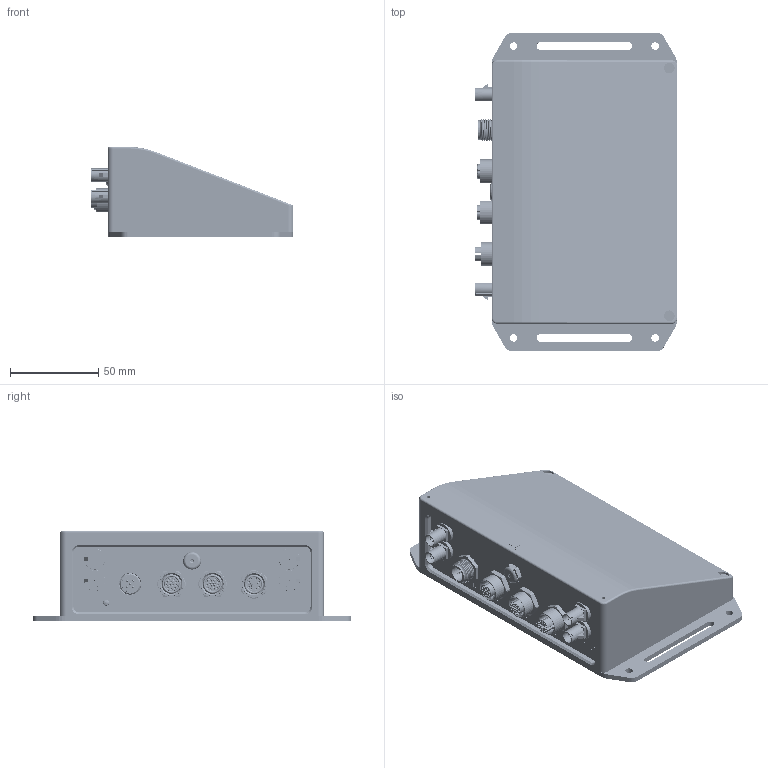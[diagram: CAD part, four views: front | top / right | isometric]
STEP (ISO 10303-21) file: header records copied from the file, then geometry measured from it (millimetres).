
FILE_DESCRIPTION(/* description */ (''),/* implementation_level */ '2;1');
FILE_NAME(/* name */ 'Assembly_PBx-A1_coordinate_system_reduced_for_for_sharing.step',/* time_stamp */ '2026-06-10T18:06:15+02:00',/* author */ (''),/* organization */ (''),/* preprocessor_version */ 'ST-DEVELOPER v20.1',/* originating_system */ 'Autodesk Translation Framework v15.8.0.0',/* authorisation */ '');
FILE_SCHEMA (('AUTOMOTIVE_DESIGN { 1 0 10303 214 3 1 1 }'));
Products named in the file (1150): Assembly_PBx-A1; CSRO+P-BOX-B; DesignRootModel; uid__4; Submodel-ACX_RESC1005X55N_3093030905_part_ACx_RESC1005X55N; Submodel-noModelForPart_ACX_RESC1005X55N_3093030905; placementOutline; placementOutline_1; Submodel-COCE+27P100V1S_1357022317_part_C0402-CAPC1005X60N; Submodel-noModelForPart_COCE+27P100V1S_1357022317; placementOutline_2; Submodel-ACX_DIOM5226X100N_A-K_2987303643_part_ACx_DIOM5226X100N_A-K; Submodel-noModelForPart_ACX_DIOM5226X100N_A-K_2987303643; placementOutline_3; placementOutline_4; Submodel-RET1+3.24K16SMT2_3268861845_part_R0402-RESC1005X40N; Submodel-noModelForPart_RET1+3.24K16SMT2_3268861845; placementOutline_5; Submodel-COCE+8P50V1S_4019567180_part_C0402-CAPC1005X60N; Submodel-noModelForPart_COCE+8P50V1S_4019567180; placementOutline_6; Submodel-COCE+33N50V7S_4019567180_part_C0402-CAPC1005X60N; Submodel-noModelForPart_COCE+33N50V7S_4019567180; placementOutline_7; Submodel-SOP80P1340X300-24N-MU_1089878439_part_SOP80P1340X300-24N-MU; Submodel-noModelForPart_SOP80P1340X300-24N-MU_1089878439; placementOutline_8; Submodel-INFE+BLM18PG121S_55953996_part_L0603-INDC1608X95N; Submodel-noModelForPart_INFE+BLM18PG121S_55953996; placementOutline_9; Submodel-COCE+1.2P50VS_4019567180_part_C0402-CAPC1005X60N; Submodel-noModelForPart_COCE+1.2P50VS_4019567180; placementOutline_10; Submodel-ACX_QFN_VISHAY-MLP55-27L_EP_4225060061_part_ACx_QFN_VISHAY-M
LP55-27L_EP; Submodel-noModelForPart_ACX_QFN_VISHAY-MLP55-27L_EP_4225060061; placementOutline_11; placementOutline_12; Submodel-TRMO+2N7002SMT_1340689990_part_SOT95P240X110-3N-GSD; Submodel-noModelForPart_TRMO+2N7002SMT_1340689990; placementOutline_13 ...
Assembly tree (1721 placements, depth 6):
  Assembly_PBx-A1
    CSRO+P-BOX-B
      DesignRootModel
        uid__4
        Submodel-RET1+10K16SMT2_3466878861_part_R0402-RESC1005X40N  x10
          Submodel-noModelForPart_RET1+10K16SMT2_3466878861
            placementOutline_321
        Submodel-RET1+20K16SMT2_3466878861_part_R0402-RESC1005X40N  x3
          Submodel-noModelForPart_RET1+20K16SMT2_3466878861
            placementOutline_343
        Submodel-COCE+100N50V12S_3236137233_part_C0402-CAPC1005X60N  x11
          Submodel-noModelForPart_COCE+100N50V12S_3236137233
            placementOutline_406
        Submodel-ACX_RESC1005X55N_3093030905_part_ACx_RESC1005X55N
          Submodel-noModelForPart_ACX_RESC1005X55N_3093030905
            placementOutline
            placementOutline_1
        Submodel-RET1+2.2K16SMT2_3468297330_part_R0402-RESC1005X40N  x2
          Submodel-noModelForPart_RET1+2.2K16SMT2_3468297330
            placementOutline_280
        Submodel-RET1+100R16SMT2_1855346664_part_R0402-RESC1005X40N  x2
          Submodel-noModelForPart_RET1+100R16SMT2_1855346664
            placementOutline_328
        Submodel-RET5+0R16SMT2_3080569313_part_R0402-RESC1005X40N  x5
          Submodel-noModelForPart_RET5+0R16SMT2_3080569313
            placementOutline_301
        Submodel-RET1+49.9R16SMT2_3466878861_part_R0402-RESC1005X40N  x2
          Submodel-noModelForPart_RET1+49.9R16SMT2_3466878861
            placementOutline_279
        Submodel-RET1+0R20SMT_3943563070_part_R0201-RESC0603X30N  x16
          Submodel-noModelForPart_RET1+0R20SMT_3943563070
            placementOutline_394
        Submodel-COCE+10N50V11S_4019567180_part_C0402-CAPC1005X60N  x4
          Submodel-noModelForPart_COCE+10N50V11S_4019567180
            placementOutline_309
        Submodel-RET1+4.7K16SMT2_3556003060_part_R0402-RESC1005X40N  x9
          Submodel-noModelForPart_RET1+4.7K16SMT2_3556003060
            placementOutline_391
        Submodel-DILE+HSMGC190_slash_S_1231386174_part_LEDC1608X80N  x5
          Submodel-noModelForPart_DILE+HSMGC190_slash_S_1231386174
            placementOutline_407
        Submodel-ACX_AMPHENOL_SFV24R-3STXXHLF_3184242105_part_ACx_AMPHENOL_SF
V24R-3STxxHLF  x2
          Submodel-noModelForPart_ACX_AMPHENOL_SFV24R-3STXXHLF_3184242105
            placementOutline_427
            placementOutline_428
        Submodel-RET1+1K16SMT2_1855346664_part_R0402-RESC1005X40N  x2
          Submodel-noModelForPart_RET1+1K16SMT2_1855346664
            placementOutline_364
        Submodel-COCE+100P50V16S_4019567180_part_C0402-CAPC1005X60N  x4
          Submodel-noModelForPart_COCE+100P50V16S_4019567180
            placementOutline_281
        Submodel-COCE+27P100V1S_1357022317_part_C0402-CAPC1005X60N
          Submodel-noModelForPart_COCE+27P100V1S_1357022317
            placementOutline_2
        Submodel-RET1+1.5K16SMT2_1855346664_part_R0402-RESC1005X40N  x7
          Submodel-noModelForPart_RET1+1.5K16SMT2_1855346664
            placementOutline_333
        Submodel-COCE+22U25V4S_3954733003_part_C0805-CAPC2013X90N  x8
          Submodel-noModelForPart_COCE+22U25V4S_3954733003
            placementOutline_289
Bounding box: 114.5 x 180 x 51.1 mm (x, y, z)
Volume: 195302.2 mm3; surface area: 134326.2 mm2
Topology: 59 solids, 148 shells, 5574 faces, 14582 edges, 9486 vertices
Faces by surface type: plane 2560, cylinder 1555, bspline 877, cone 422, torus 107, sphere 53
Full cylindrical faces by diameter (mm): 0.38 x2, 0.5 x37, 0.52 x2, 0.6 x58, 0.62 x29, 0.7 x74, 0.8 x16, 0.9 x24, 0.95 x87, 1 x25, 1.001 x2, 1.05 x5, 1.08 x37, 1.1 x111, 1.2 x8, 1.3 x29, 1.4 x15, 1.6 x15, 2 x8, 2.44 x9, 2.459 x4, 2.5 x11, 2.8 x1, 2.87 x9, 2.88 x4, 3 x8, 3.1 x1, 3.2 x4, 3.3 x2, 3.4 x4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
Entity records: 251379 total; most frequent: CARTESIAN_POINT 100628, DIRECTION 28302, ORIENTED_EDGE 26268, EDGE_CURVE 13134, AXIS2_PLACEMENT_3D 10506, VERTEX_POINT 8613, LINE 7290, VECTOR 7290
